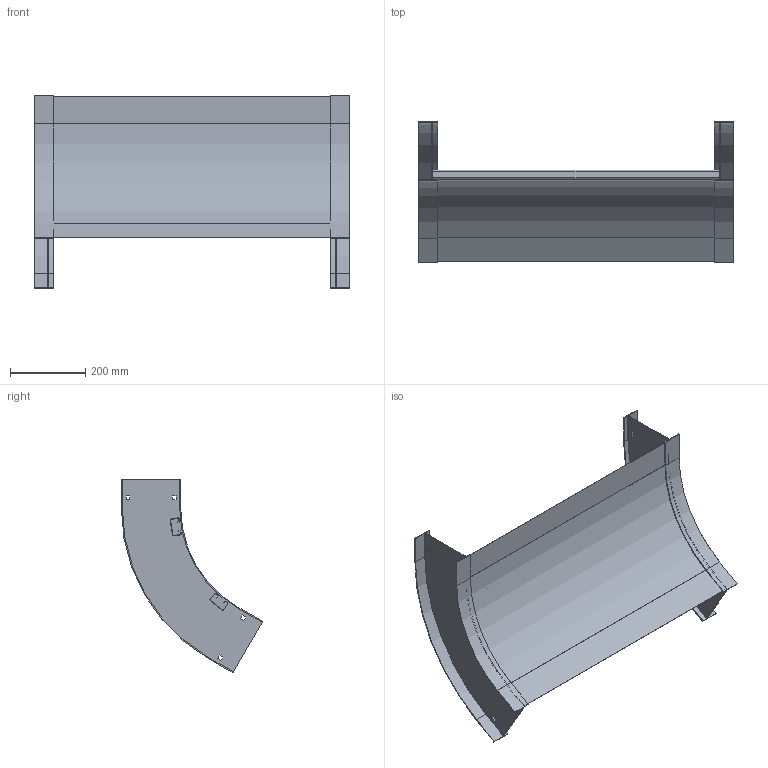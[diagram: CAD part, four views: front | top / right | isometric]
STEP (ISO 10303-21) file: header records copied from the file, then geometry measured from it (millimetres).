
FILE_DESCRIPTION((''),'2;1');
FILE_NAME('AHF630SVO6012_ASM','2010-02-02T',('erouzier'),(''),'PRO/ENGINEER BY PARAMETRIC TECHNOLOGY CORPORATION, 2008510','PRO/ENGINEER BY PARAMETRIC TECHNOLOGY CORPORATION, 2008510','');
FILE_SCHEMA(('CONFIG_CONTROL_DESIGN'));
Length unit declared in the file: inch
Products named in the file (4): CDS001658_6_60_12; CDS002159L30; ED04591_60_12_30; AHF630SVO6012_ASM
Assembly tree (5 placements, depth 2):
  AHF630SVO6012_ASM
    CDS001658_6_60_12  x2
    CDS002159L30  x2
    ED04591_60_12_30
Bounding box: 836.42 x 376.38 x 515.09 mm (x, y, z)
Volume: 1288203.1 mm3; surface area: 1645124.9 mm2
Topology: 5 solids, 5 shells, 158 faces, 436 edges, 288 vertices
Faces by surface type: plane 122, cylinder 36
Entity records: 2818 total; most frequent: CARTESIAN_POINT 479, ORIENTED_EDGE 464, DIRECTION 460, EDGE_CURVE 232, VECTOR 194, LINE 194, VERTEX_POINT 152, AXIS2_PLACEMENT_3D 133
